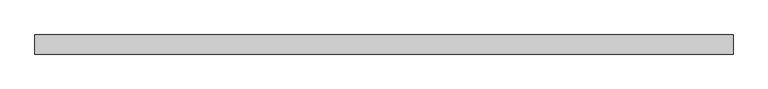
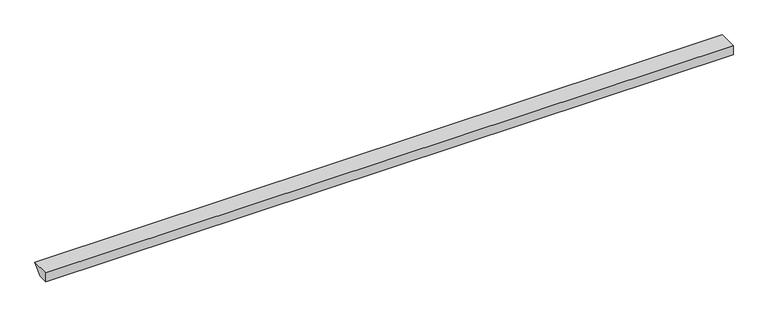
"""IFC4 building model written with IfcOpenShell, lengths in millimetres: proxy geometry, Gousset traverse bord droit : Gousset traverse bord droit."""

from ifc_helpers import new_model, si_unit, frame, origin, place, context, project, spatial, polyline, outline, extrude, source, transform, mapped, element, save


def generic_models_48085c64(model_context):
    return source(origin(), model_context, "Body", "SweptSolid", [
        extrude(outline(polyline([(0.0, -350.0), (700.0, -350.0), (350.0, -700.0), (0.0, -700.0), (0.0, -350.0)])), frame((0.0, 0.0, 0.0), z_axis=(1.0, 0.0, 0.0), x_axis=(0.0, 1.0, 0.0)), (0.0, 0.0, 1.0), 25500.0),
    ])


if __name__ == "__main__":
    model = new_model("IFC4")
    model_context = context("Model", 3, world=origin())
    ifc_project = project(units=[si_unit("LENGTHUNIT", "METRE", prefix="MILLI")], contexts=[model_context])
    site = spatial("IfcSite", under=ifc_project)
    building = spatial("IfcBuilding", under=site)
    placement = place(None, origin())
    generic_models_shape = generic_models_48085c64(model_context)
    element("IfcBuildingElementProxy", 1, Name="Gousset traverse bord droit : Gousset traverse bord droit", ObjectType="Gousset traverse bord droit : Gousset traverse bord droit", at=placement, inside=building, context=model_context, shape_type="MappedRepresentation", body=[
        mapped(generic_models_shape, transform((0.0, 0.0, 0.0), x_axis=(1.0, 0.0, 0.0), y_axis=(0.0, 1.0, 0.0), z_axis=(0.0, 0.0, 1.0))),
    ])
    save(model, "model.ifc")
